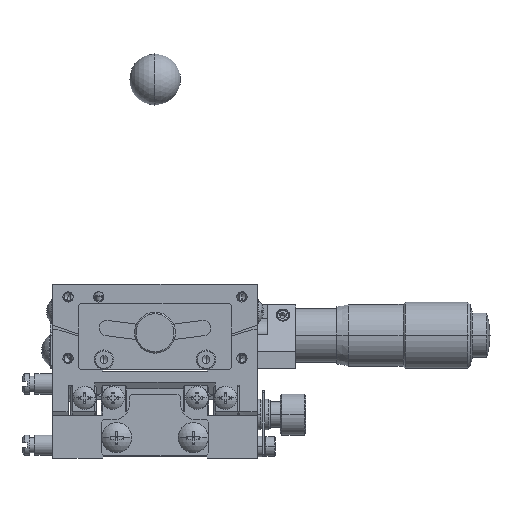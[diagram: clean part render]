
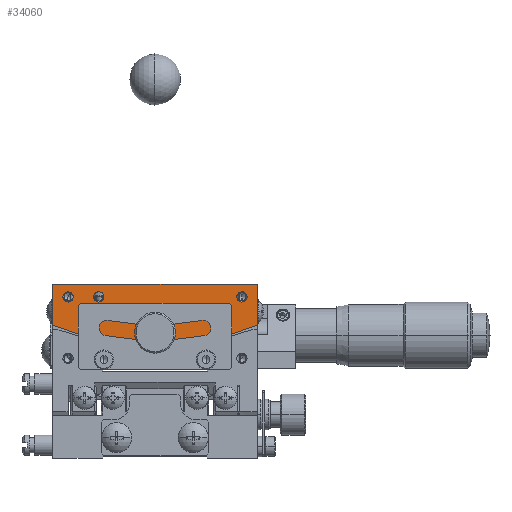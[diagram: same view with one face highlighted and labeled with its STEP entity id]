
A CAD part, left-side view. The second image highlights one B-rep face of the part: STEP entity #34060.
In plain terms, the highlighted planar face has unit normal (-1, 0, 0).
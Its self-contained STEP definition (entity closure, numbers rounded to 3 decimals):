
#237 = CARTESIAN_POINT ( 'NONE',  ( -20., 20., 0. ) ) ;
#238 = DIRECTION ( 'NONE',  ( 0., 0., 1. ) ) ;
#239 = VECTOR ( 'NONE', #238, 1000. ) ;
#240 = CARTESIAN_POINT ( 'NONE',  ( -20., 20., -8. ) ) ;
#241 = LINE ( 'NONE', #240, #239 ) ;
#242 = CARTESIAN_POINT ( 'NONE',  ( -20., 20., -8. ) ) ;
#260 = DIRECTION ( 'NONE',  ( 0., -1., 0. ) ) ;
#261 = DIRECTION ( 'NONE',  ( -1., 0., 0. ) ) ;
#262 = CARTESIAN_POINT ( 'NONE',  ( -20., 11., -2.5 ) ) ;
#263 = AXIS2_PLACEMENT_3D ( 'NONE', #262, #261, #260 ) ;
#264 = CIRCLE ( 'NONE', #263, 1. ) ;
#270 = CARTESIAN_POINT ( 'NONE',  ( -20., -20., 0. ) ) ;
#272 = DIRECTION ( 'NONE',  ( 0., -1., 0. ) ) ;
#273 = VECTOR ( 'NONE', #272, 1000. ) ;
#274 = CARTESIAN_POINT ( 'NONE',  ( -20., 20., 0. ) ) ;
#275 = LINE ( 'NONE', #274, #273 ) ;
#309 = CARTESIAN_POINT ( 'NONE',  ( -20., -20., -8. ) ) ;
#310 = DIRECTION ( 'NONE',  ( 0., 0., -1. ) ) ;
#311 = VECTOR ( 'NONE', #310, 1000. ) ;
#312 = CARTESIAN_POINT ( 'NONE',  ( -20., -20., 0. ) ) ;
#313 = LINE ( 'NONE', #312, #311 ) ;
#320 = DIRECTION ( 'NONE',  ( 0., 0.625, -0.781 ) ) ;
#321 = DIRECTION ( 'NONE',  ( -1., 0., 0. ) ) ;
#322 = CARTESIAN_POINT ( 'NONE',  ( -20., 17., -2.5 ) ) ;
#323 = AXIS2_PLACEMENT_3D ( 'NONE', #322, #321, #320 ) ;
#327 = CIRCLE ( 'NONE', #323, 1. ) ;
#331 = PLANE ( 'NONE',  #333 ) ;
#332 = CARTESIAN_POINT ( 'NONE',  ( -20., 0., 40. ) ) ;
#333 = AXIS2_PLACEMENT_3D ( 'NONE', #332, #389, #388 ) ;
#334 = FACE_OUTER_BOUND ( 'NONE', #34074, .T. ) ;
#335 = FACE_BOUND ( 'NONE', #34070, .T. ) ;
#336 = FACE_BOUND ( 'NONE', #34066, .T. ) ;
#340 = FACE_BOUND ( 'NONE', #33954, .T. ) ;
#344 = DIRECTION ( 'NONE',  ( 0., -1., 0. ) ) ;
#345 = DIRECTION ( 'NONE',  ( 1., 0., 0. ) ) ;
#346 = CARTESIAN_POINT ( 'NONE',  ( -20., 0., 40. ) ) ;
#347 = AXIS2_PLACEMENT_3D ( 'NONE', #346, #345, #344 ) ;
#348 = CIRCLE ( 'NONE', #347, 52. ) ;
#349 = DIRECTION ( 'NONE',  ( 0., -1., 0. ) ) ;
#350 = DIRECTION ( 'NONE',  ( 1., 0., 0. ) ) ;
#351 = CARTESIAN_POINT ( 'NONE',  ( -20., 0., 40. ) ) ;
#352 = AXIS2_PLACEMENT_3D ( 'NONE', #351, #350, #349 ) ;
#353 = CIRCLE ( 'NONE', #352, 52. ) ;
#383 = DIRECTION ( 'NONE',  ( 0., -0.305, -0.952 ) ) ;
#384 = DIRECTION ( 'NONE',  ( -1., 0., 0. ) ) ;
#385 = CARTESIAN_POINT ( 'NONE',  ( -20., -17., -2.5 ) ) ;
#386 = AXIS2_PLACEMENT_3D ( 'NONE', #385, #384, #383 ) ;
#387 = CIRCLE ( 'NONE', #386, 1. ) ;
#388 = DIRECTION ( 'NONE',  ( 0., -1., 0. ) ) ;
#389 = DIRECTION ( 'NONE',  ( 1., 0., 0. ) ) ;
#6997 = CARTESIAN_POINT ( 'NONE',  ( -20., -3., -9.5 ) ) ;
#7103 = CARTESIAN_POINT ( 'NONE',  ( -20., 1.699, -11.972 ) ) ;
#7104 = DIRECTION ( 'NONE',  ( 0., 1., 0. ) ) ;
#7105 = DIRECTION ( 'NONE',  ( -1., 0., 0. ) ) ;
#7106 = CARTESIAN_POINT ( 'NONE',  ( -20., 0., -9.5 ) ) ;
#7107 = AXIS2_PLACEMENT_3D ( 'NONE', #7106, #7105, #7104 ) ;
#7108 = CIRCLE ( 'NONE', #7107, 3. ) ;
#7109 = CARTESIAN_POINT ( 'NONE',  ( -20., 3., -9.5 ) ) ;
#7132 = CARTESIAN_POINT ( 'NONE',  ( -20., -1.699, -11.972 ) ) ;
#7133 = DIRECTION ( 'NONE',  ( 0., 1., 0. ) ) ;
#7134 = DIRECTION ( 'NONE',  ( -1., 0., 0. ) ) ;
#7135 = CARTESIAN_POINT ( 'NONE',  ( -20., 0., -9.5 ) ) ;
#7136 = AXIS2_PLACEMENT_3D ( 'NONE', #7135, #7134, #7133 ) ;
#7142 = CIRCLE ( 'NONE', #7136, 3. ) ;
#7554 = DIRECTION ( 'NONE',  ( 0., 1., 0. ) ) ;
#7555 = DIRECTION ( 'NONE',  ( -1., 0., 0. ) ) ;
#7556 = CARTESIAN_POINT ( 'NONE',  ( -20., 0., -9.5 ) ) ;
#7557 = AXIS2_PLACEMENT_3D ( 'NONE', #7556, #7555, #7554 ) ;
#7558 = CIRCLE ( 'NONE', #7557, 3. ) ;
#19276 = EDGE_CURVE ( 'NONE', #19316, #19281, #80572, .T. ) ;
#19281 = VERTEX_POINT ( 'NONE', #80551 ) ;
#19316 = VERTEX_POINT ( 'NONE', #80719 ) ;
#19393 = VERTEX_POINT ( 'NONE', #80823 ) ;
#19397 = EDGE_CURVE ( 'NONE', #19393, #19430, #80818, .T. ) ;
#19430 = VERTEX_POINT ( 'NONE', #80867 ) ;
#19467 = VERTEX_POINT ( 'NONE', #80920 ) ;
#19476 = EDGE_CURVE ( 'NONE', #19467, #19481, #81013, .T. ) ;
#19481 = VERTEX_POINT ( 'NONE', #81006 ) ;
#33836 = VERTEX_POINT ( 'NONE', #242 ) ;
#33840 = EDGE_CURVE ( 'NONE', #33836, #33843, #241, .T. ) ;
#33843 = VERTEX_POINT ( 'NONE', #237 ) ;
#33919 = EDGE_CURVE ( 'NONE', #33843, #33920, #275, .T. ) ;
#33920 = VERTEX_POINT ( 'NONE', #270 ) ;
#33951 = EDGE_CURVE ( 'NONE', #19281, #19316, #264, .T. ) ;
#33954 = EDGE_LOOP ( 'NONE', ( #34062, #34064 ) ) ;
#33972 = EDGE_CURVE ( 'NONE', #19430, #19393, #327, .T. ) ;
#34002 = EDGE_CURVE ( 'NONE', #33920, #34003, #313, .T. ) ;
#34003 = VERTEX_POINT ( 'NONE', #309 ) ;
#34039 = ORIENTED_EDGE ( 'NONE', *, *, #34041, .F. ) ;
#34041 = EDGE_CURVE ( 'NONE', #34003, #39699, #353, .T. ) ;
#34044 = ORIENTED_EDGE ( 'NONE', *, *, #34002, .F. ) ;
#34046 = ORIENTED_EDGE ( 'NONE', *, *, #33919, .F. ) ;
#34048 = ORIENTED_EDGE ( 'NONE', *, *, #33840, .F. ) ;
#34049 = ORIENTED_EDGE ( 'NONE', *, *, #34050, .F. ) ;
#34050 = EDGE_CURVE ( 'NONE', #39667, #33836, #348, .T. ) ;
#34052 = ORIENTED_EDGE ( 'NONE', *, *, #39665, .F. ) ;
#34054 = ORIENTED_EDGE ( 'NONE', *, *, #40086, .F. ) ;
#34060 = ADVANCED_FACE ( 'NONE', ( #340, #336, #335, #334 ), #331, .F. ) ;
#34062 = ORIENTED_EDGE ( 'NONE', *, *, #33951, .F. ) ;
#34064 = ORIENTED_EDGE ( 'NONE', *, *, #19276, .F. ) ;
#34066 = EDGE_LOOP ( 'NONE', ( #34067, #34068 ) ) ;
#34067 = ORIENTED_EDGE ( 'NONE', *, *, #34081, .F. ) ;
#34068 = ORIENTED_EDGE ( 'NONE', *, *, #19476, .F. ) ;
#34070 = EDGE_LOOP ( 'NONE', ( #34072, #34073 ) ) ;
#34072 = ORIENTED_EDGE ( 'NONE', *, *, #33972, .F. ) ;
#34073 = ORIENTED_EDGE ( 'NONE', *, *, #19397, .F. ) ;
#34074 = EDGE_LOOP ( 'NONE', ( #34075, #34039, #34044, #34046, #34048, #34049, #34052, #34054 ) ) ;
#34075 = ORIENTED_EDGE ( 'NONE', *, *, #39697, .F. ) ;
#34081 = EDGE_CURVE ( 'NONE', #19481, #19467, #387, .T. ) ;
#39548 = VERTEX_POINT ( 'NONE', #6997 ) ;
#39663 = VERTEX_POINT ( 'NONE', #7109 ) ;
#39665 = EDGE_CURVE ( 'NONE', #39663, #39667, #7108, .T. ) ;
#39667 = VERTEX_POINT ( 'NONE', #7103 ) ;
#39697 = EDGE_CURVE ( 'NONE', #39699, #39548, #7142, .T. ) ;
#39699 = VERTEX_POINT ( 'NONE', #7132 ) ;
#40086 = EDGE_CURVE ( 'NONE', #39548, #39663, #7558, .T. ) ;
#80551 = CARTESIAN_POINT ( 'NONE',  ( -20., 10., -2.5 ) ) ;
#80565 = DIRECTION ( 'NONE',  ( 0., -1., 0. ) ) ;
#80567 = DIRECTION ( 'NONE',  ( -1., 0., 0. ) ) ;
#80569 = CARTESIAN_POINT ( 'NONE',  ( -20., 11., -2.5 ) ) ;
#80570 = AXIS2_PLACEMENT_3D ( 'NONE', #80569, #80567, #80565 ) ;
#80572 = CIRCLE ( 'NONE', #80570, 1. ) ;
#80719 = CARTESIAN_POINT ( 'NONE',  ( -20., 12., -2.5 ) ) ;
#80814 = DIRECTION ( 'NONE',  ( 0., 0.625, -0.781 ) ) ;
#80815 = DIRECTION ( 'NONE',  ( -1., 0., 0. ) ) ;
#80816 = CARTESIAN_POINT ( 'NONE',  ( -20., 17., -2.5 ) ) ;
#80817 = AXIS2_PLACEMENT_3D ( 'NONE', #80816, #80815, #80814 ) ;
#80818 = CIRCLE ( 'NONE', #80817, 1. ) ;
#80823 = CARTESIAN_POINT ( 'NONE',  ( -20., 16.375, -1.719 ) ) ;
#80867 = CARTESIAN_POINT ( 'NONE',  ( -20., 17.625, -3.281 ) ) ;
#80920 = CARTESIAN_POINT ( 'NONE',  ( -20., -16.695, -1.548 ) ) ;
#81006 = CARTESIAN_POINT ( 'NONE',  ( -20., -17.305, -3.452 ) ) ;
#81007 = DIRECTION ( 'NONE',  ( 0., -0.305, -0.952 ) ) ;
#81009 = DIRECTION ( 'NONE',  ( -1., 0., 0. ) ) ;
#81011 = AXIS2_PLACEMENT_3D ( 'NONE', #81023, #81009, #81007 ) ;
#81013 = CIRCLE ( 'NONE', #81011, 1. ) ;
#81023 = CARTESIAN_POINT ( 'NONE',  ( -20., -17., -2.5 ) ) ;
